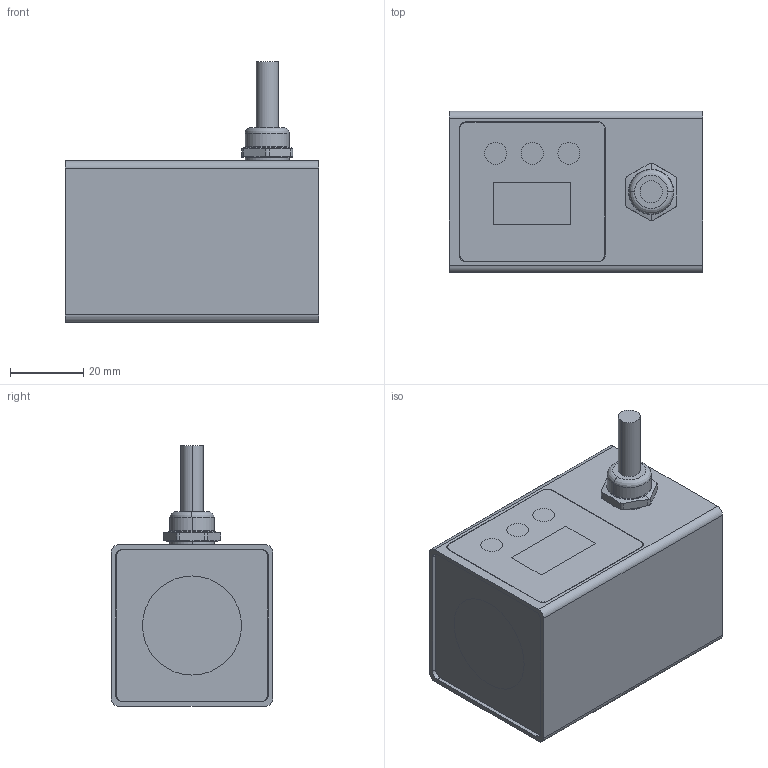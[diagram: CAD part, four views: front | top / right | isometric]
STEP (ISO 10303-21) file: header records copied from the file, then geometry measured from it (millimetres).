
FILE_DESCRIPTION(/* description */ (''),/* implementation_level */ '2;1');
FILE_NAME(/* name */ 'SDP',/* time_stamp */ '2025-11-13T14:39:31+08:00',/* author */ (''),/* organization */ (''),/* preprocessor_version */ 'ST-DEVELOPER v19.2',/* originating_system */ 'Rhino 8.5',/* authorisation */ '');
FILE_SCHEMA (('CONFIG_CONTROL_DESIGN'));
Length unit declared in the file: millimetre
Products named in the file (1): Document
Bounding box: 69 x 44 x 71 mm (x, y, z)
Volume: 43784.8 mm3; surface area: 35672.2 mm2
Topology: 10 solids, 10 shells, 243 faces, 635 edges, 422 vertices
Faces by surface type: plane 139, cylinder 96, bspline 8
Entity records: 7664 total; most frequent: CARTESIAN_POINT 2385, ORIENTED_EDGE 1264, EDGE_CURVE 632, DIRECTION 619, AXIS2_PLACEMENT_3D 427, VERTEX_POINT 420, B_SPLINE_CURVE_WITH_KNOTS 409, EDGE_LOOP 274
